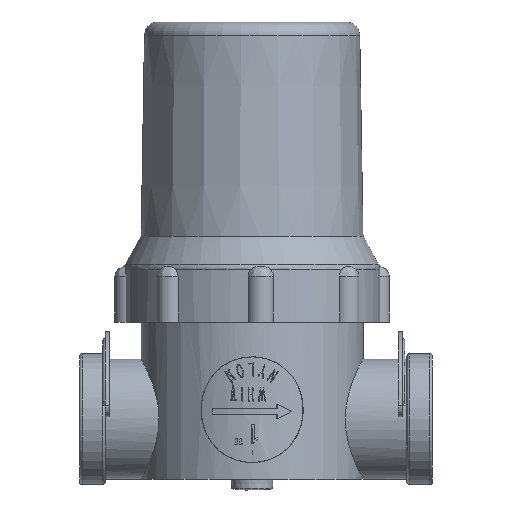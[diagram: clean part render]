
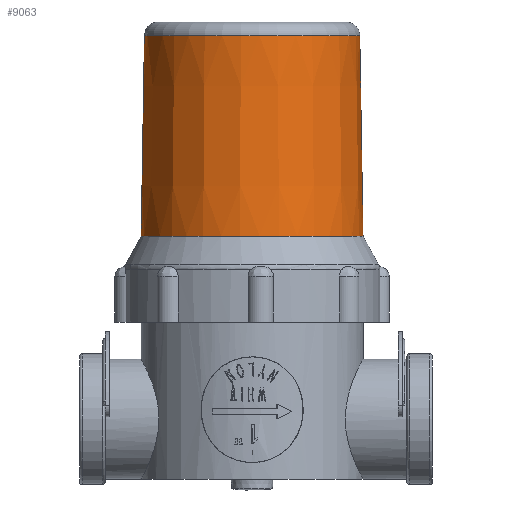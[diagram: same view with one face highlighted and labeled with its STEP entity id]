
A CAD part, front view. The second image highlights one B-rep face of the part: STEP entity #9063.
In plain terms, the highlighted conical face has half-angle 0.93 degrees and reference radius 38.75 mm.
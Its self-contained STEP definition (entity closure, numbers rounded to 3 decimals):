
#839=CONICAL_SURFACE('',#9674,38.75,0.016);
#986=CIRCLE('',#9672,40.);
#987=CIRCLE('',#9673,40.);
#988=CIRCLE('',#9675,38.83);
#989=CIRCLE('',#9676,38.83);
#1487=FACE_OUTER_BOUND('',#1953,.T.);
#1953=EDGE_LOOP('',(#6916,#6917,#6918,#6919,#6920,#6921));
#2458=LINE('',#22269,#3039);
#3039=VECTOR('',#10796,38.75);
#3813=VERTEX_POINT('',#22162);
#3814=VERTEX_POINT('',#22164);
#3815=VERTEX_POINT('',#22268);
#3816=VERTEX_POINT('',#22270);
#5010=EDGE_CURVE('',#3814,#3813,#986,.T.);
#5011=EDGE_CURVE('',#3813,#3814,#987,.T.);
#5013=EDGE_CURVE('',#3813,#3815,#2458,.T.);
#5014=EDGE_CURVE('',#3815,#3816,#988,.T.);
#5015=EDGE_CURVE('',#3816,#3815,#989,.T.);
#6916=ORIENTED_EDGE('',*,*,#5010,.T.);
#6917=ORIENTED_EDGE('',*,*,#5013,.T.);
#6918=ORIENTED_EDGE('',*,*,#5014,.T.);
#6919=ORIENTED_EDGE('',*,*,#5015,.T.);
#6920=ORIENTED_EDGE('',*,*,#5013,.F.);
#6921=ORIENTED_EDGE('',*,*,#5011,.T.);
#9063=ADVANCED_FACE('',(#1487),#839,.T.);
#9672=AXIS2_PLACEMENT_3D('',#22165,#10790,#10791);
#9673=AXIS2_PLACEMENT_3D('',#22166,#10792,#10793);
#9674=AXIS2_PLACEMENT_3D('',#22267,#10794,#10795);
#9675=AXIS2_PLACEMENT_3D('',#22271,#10797,#10798);
#9676=AXIS2_PLACEMENT_3D('',#22272,#10799,#10800);
#10790=DIRECTION('center_axis',(0.,0.,1.));
#10791=DIRECTION('ref_axis',(0.998,0.068,0.));
#10792=DIRECTION('center_axis',(0.,0.,1.));
#10793=DIRECTION('ref_axis',(0.998,0.068,0.));
#10794=DIRECTION('center_axis',(0.,0.,-1.));
#10795=DIRECTION('ref_axis',(-0.998,-0.068,0.));
#10796=DIRECTION('',(-0.016,-0.001,1.));
#10797=DIRECTION('center_axis',(0.,0.,-1.));
#10798=DIRECTION('ref_axis',(-0.998,-0.068,0.));
#10799=DIRECTION('center_axis',(0.,0.,-1.));
#10800=DIRECTION('ref_axis',(-0.998,-0.068,0.));
#22162=CARTESIAN_POINT('',(44.665,25.643,179.424));
#22164=CARTESIAN_POINT('',(-35.15,20.214,179.424));
#22165=CARTESIAN_POINT('Origin',(4.757,22.928,179.424));
#22166=CARTESIAN_POINT('Origin',(4.757,22.928,179.424));
#22267=CARTESIAN_POINT('Origin',(4.757,22.928,256.424));
#22268=CARTESIAN_POINT('',(43.498,25.563,251.505));
#22269=CARTESIAN_POINT('',(43.418,25.558,256.424));
#22270=CARTESIAN_POINT('',(-33.983,20.293,251.505));
#22271=CARTESIAN_POINT('Origin',(4.757,22.928,251.505));
#22272=CARTESIAN_POINT('Origin',(4.757,22.928,251.505));
